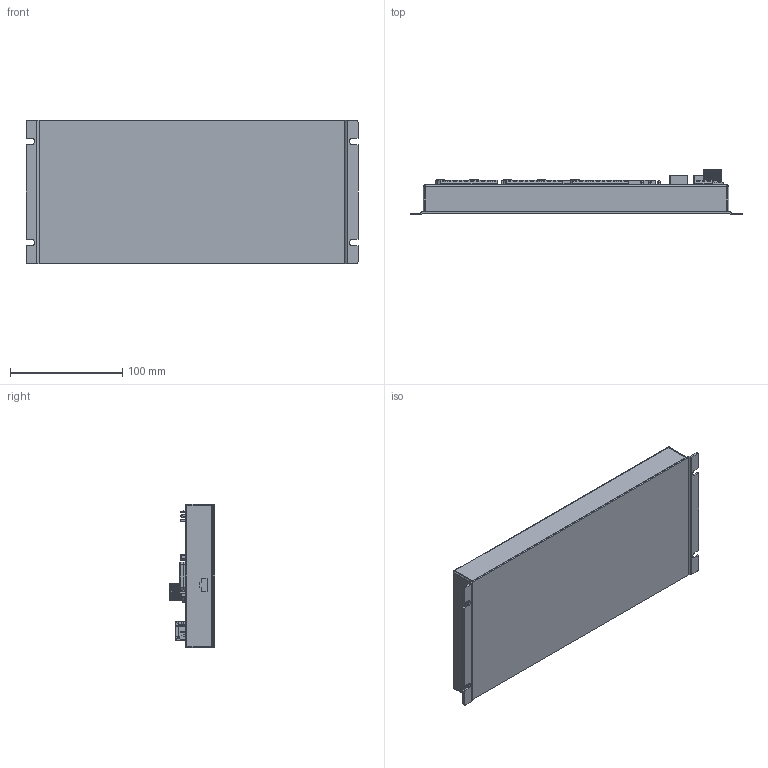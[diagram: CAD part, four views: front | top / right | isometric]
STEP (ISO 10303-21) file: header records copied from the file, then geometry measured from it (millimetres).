
FILE_DESCRIPTION (( 'STEP AP214' ), '1' );
FILE_NAME ('QLE-520.STEP', '2025-09-16T00:58:18', ( '' ), ( '' ), 'SwSTEP 2.0', 'SolidWorks 2025', '' );
FILE_SCHEMA (( 'AUTOMOTIVE_DESIGN' ));
Products named in the file (1): QLE-520
Bounding box: 295.41 x 40.8 x 128 mm (x, y, z)
Surface area: 204269 mm2 (no closed solid volume)
Topology: 0 solids, 154 shells, 2179 faces, 8712 edges, 6617 vertices
Faces by surface type: plane 1444, cylinder 493, cone 160, bspline 65, sphere 15, torus 2
Entity records: 100525 total; most frequent: CARTESIAN_POINT 29352, DIRECTION 14202, ORIENTED_EDGE 12986, EDGE_CURVE 8686, VERTEX_POINT 6610, VECTOR 5982, LINE 5982, AXIS2_PLACEMENT_3D 4110
